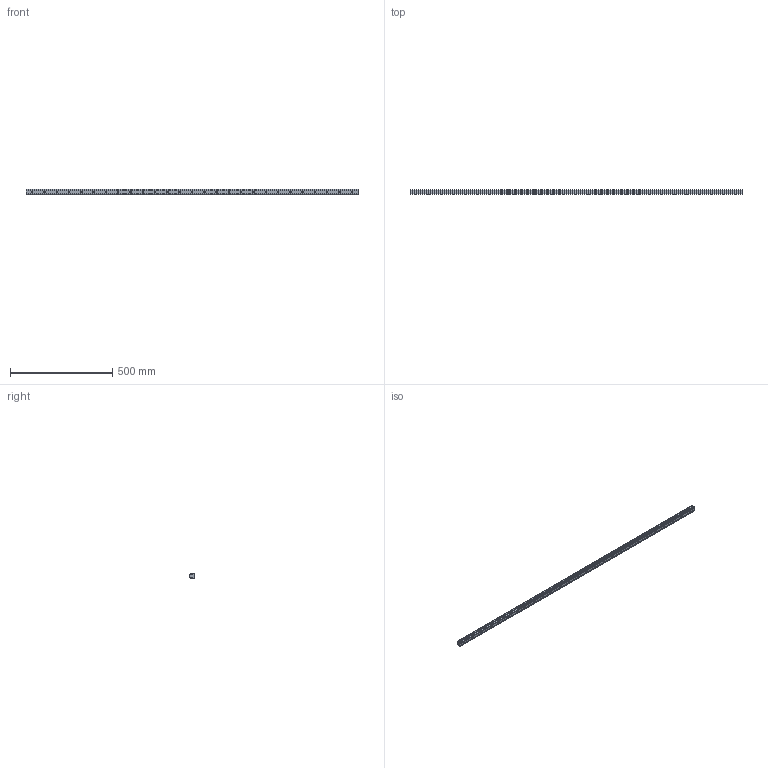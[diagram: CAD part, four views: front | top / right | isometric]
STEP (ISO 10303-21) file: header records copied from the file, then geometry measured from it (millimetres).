
FILE_DESCRIPTION (( 'STEP AP203' ), '1' );
FILE_NAME ('L1018.25R-1620.step', '2023-08-06T10:38:06', ( '' ), ( '' ), 'SwSTEP 2.0', 'SolidWorks 2019', '' );
FILE_SCHEMA (( 'CONFIG_CONTROL_DESIGN' ));
Length unit declared in the file: millimetre
Products named in the file (1): L1018.25R-1620
Bounding box: 1620 x 21.8 x 25 mm (x, y, z)
Volume: 673738.7 mm3; surface area: 161711.1 mm2
Topology: 1 solids, 1 shells, 272 faces, 621 edges, 351 vertices
Faces by surface type: cylinder 111, cone 108, plane 53
Entity records: 7316 total; most frequent: DIRECTION 1389, CARTESIAN_POINT 1191, ORIENTED_EDGE 1134, EDGE_CURVE 567, AXIS2_PLACEMENT_3D 549, VERTEX_POINT 351, EDGE_LOOP 326, LINE 291
